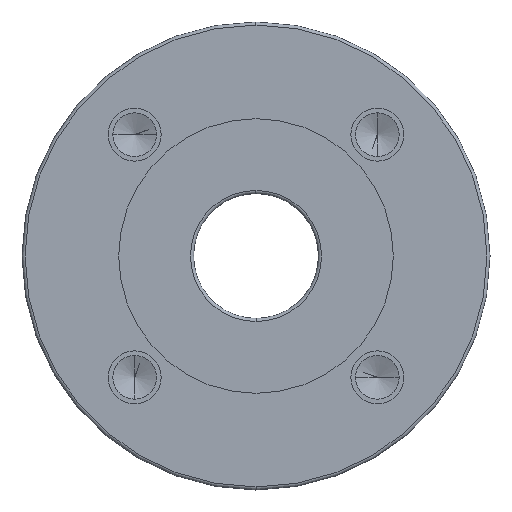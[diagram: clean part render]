
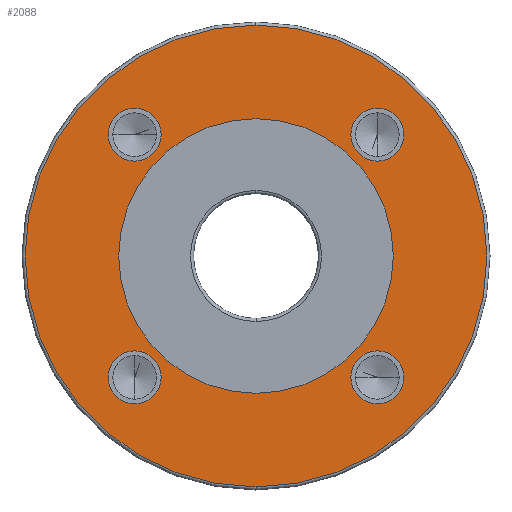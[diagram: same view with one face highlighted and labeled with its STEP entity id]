
A CAD part, left-side view. The second image highlights one B-rep face of the part: STEP entity #2088.
In plain terms, the highlighted planar face has unit normal (-1, 0, 0).
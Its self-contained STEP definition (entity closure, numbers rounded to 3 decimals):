
#1 = EDGE_LOOP ( 'NONE', ( #2082, #35 ) ) ;
#2 = EDGE_CURVE ( 'NONE', #1886, #1882, #347, .T. ) ;
#3 = ORIENTED_EDGE ( 'NONE', *, *, #85, .F. ) ;
#4 = ORIENTED_EDGE ( 'NONE', *, *, #10, .F. ) ;
#6 = ORIENTED_EDGE ( 'NONE', *, *, #157, .F. ) ;
#7 = ORIENTED_EDGE ( 'NONE', *, *, #9, .F. ) ;
#9 = EDGE_CURVE ( 'NONE', #259, #193, #349, .T. ) ;
#10 = EDGE_CURVE ( 'NONE', #60, #353, #335, .T. ) ;
#11 = ORIENTED_EDGE ( 'NONE', *, *, #1691, .F. ) ;
#12 = EDGE_LOOP ( 'NONE', ( #11, #1686 ) ) ;
#13 = ORIENTED_EDGE ( 'NONE', *, *, #257, .F. ) ;
#14 = EDGE_LOOP ( 'NONE', ( #4, #3 ) ) ;
#30 = EDGE_LOOP ( 'NONE', ( #2087, #2089 ) ) ;
#35 = ORIENTED_EDGE ( 'NONE', *, *, #155, .F. ) ;
#60 = VERTEX_POINT ( 'NONE', #401 ) ;
#85 = EDGE_CURVE ( 'NONE', #353, #60, #439, .T. ) ;
#155 = EDGE_CURVE ( 'NONE', #2066, #2065, #597, .T. ) ;
#157 = EDGE_CURVE ( 'NONE', #161, #227, #587, .T. ) ;
#161 = VERTEX_POINT ( 'NONE', #578 ) ;
#193 = VERTEX_POINT ( 'NONE', #647 ) ;
#227 = VERTEX_POINT ( 'NONE', #743 ) ;
#257 = EDGE_CURVE ( 'NONE', #193, #259, #750, .T. ) ;
#259 = VERTEX_POINT ( 'NONE', #792 ) ;
#332 = DIRECTION ( 'NONE',  ( 0., 0., -1. ) ) ;
#333 = DIRECTION ( 'NONE',  ( -1., 0., 0. ) ) ;
#334 = CARTESIAN_POINT ( 'NONE',  ( -32., -38.891, -38.891 ) ) ;
#335 = CIRCLE ( 'NONE', #351, 8.5 ) ;
#338 = DIRECTION ( 'NONE',  ( 0., 0., 1. ) ) ;
#339 = DIRECTION ( 'NONE',  ( -1., 0., 0. ) ) ;
#340 = CARTESIAN_POINT ( 'NONE',  ( -32., 0., 0. ) ) ;
#341 = AXIS2_PLACEMENT_3D ( 'NONE', #340, #339, #338 ) ;
#343 = DIRECTION ( 'NONE',  ( 0., 0., -1. ) ) ;
#344 = DIRECTION ( 'NONE',  ( -1., 0., 0. ) ) ;
#345 = CARTESIAN_POINT ( 'NONE',  ( -32., 0., 0. ) ) ;
#346 = AXIS2_PLACEMENT_3D ( 'NONE', #345, #344, #343 ) ;
#347 = CIRCLE ( 'NONE', #346, 74. ) ;
#349 = CIRCLE ( 'NONE', #341, 44. ) ;
#351 = AXIS2_PLACEMENT_3D ( 'NONE', #334, #333, #332 ) ;
#353 = VERTEX_POINT ( 'NONE', #890 ) ;
#401 = CARTESIAN_POINT ( 'NONE',  ( -32., -30.391, -38.891 ) ) ;
#435 = DIRECTION ( 'NONE',  ( 0., 0., -1. ) ) ;
#436 = DIRECTION ( 'NONE',  ( -1., 0., 0. ) ) ;
#437 = CARTESIAN_POINT ( 'NONE',  ( -32., -38.891, -38.891 ) ) ;
#438 = AXIS2_PLACEMENT_3D ( 'NONE', #437, #436, #435 ) ;
#439 = CIRCLE ( 'NONE', #438, 8.5 ) ;
#552 = AXIS2_PLACEMENT_3D ( 'NONE', #601, #589, #588 ) ;
#569 = CARTESIAN_POINT ( 'NONE',  ( -32., 38.891, -38.891 ) ) ;
#578 = CARTESIAN_POINT ( 'NONE',  ( -32., 38.891, -47.391 ) ) ;
#580 = DIRECTION ( 'NONE',  ( 0., 0., -1. ) ) ;
#581 = DIRECTION ( 'NONE',  ( -1., 0., 0. ) ) ;
#586 = AXIS2_PLACEMENT_3D ( 'NONE', #569, #581, #580 ) ;
#587 = CIRCLE ( 'NONE', #586, 8.5 ) ;
#588 = DIRECTION ( 'NONE',  ( 0., 0., -1. ) ) ;
#589 = DIRECTION ( 'NONE',  ( -1., 0., 0. ) ) ;
#597 = CIRCLE ( 'NONE', #552, 8.5 ) ;
#601 = CARTESIAN_POINT ( 'NONE',  ( -32., -38.891, 38.891 ) ) ;
#647 = CARTESIAN_POINT ( 'NONE',  ( -32., 0., 44. ) ) ;
#743 = CARTESIAN_POINT ( 'NONE',  ( -32., 38.891, -30.391 ) ) ;
#750 = CIRCLE ( 'NONE', #800, 44. ) ;
#792 = CARTESIAN_POINT ( 'NONE',  ( -32., 0., -44. ) ) ;
#796 = DIRECTION ( 'NONE',  ( 0., 0., 1. ) ) ;
#797 = DIRECTION ( 'NONE',  ( -1., 0., 0. ) ) ;
#798 = CARTESIAN_POINT ( 'NONE',  ( -32., 0., 0. ) ) ;
#800 = AXIS2_PLACEMENT_3D ( 'NONE', #798, #797, #796 ) ;
#876 = AXIS2_PLACEMENT_3D ( 'NONE', #906, #905, #904 ) ;
#890 = CARTESIAN_POINT ( 'NONE',  ( -32., -47.391, -38.891 ) ) ;
#904 = DIRECTION ( 'NONE',  ( 0., 0., -1. ) ) ;
#905 = DIRECTION ( 'NONE',  ( -1., 0., 0. ) ) ;
#906 = CARTESIAN_POINT ( 'NONE',  ( -32., 38.891, 38.891 ) ) ;
#915 = CIRCLE ( 'NONE', #876, 8.5 ) ;
#1187 = CARTESIAN_POINT ( 'NONE',  ( -32., 0., -74. ) ) ;
#1191 = DIRECTION ( 'NONE',  ( 0., 0., -1. ) ) ;
#1192 = DIRECTION ( 'NONE',  ( -1., 0., 0. ) ) ;
#1193 = CARTESIAN_POINT ( 'NONE',  ( -32., 0., 0. ) ) ;
#1195 = CARTESIAN_POINT ( 'NONE',  ( -32., 0., 74. ) ) ;
#1197 = CIRCLE ( 'NONE', #1208, 74. ) ;
#1208 = AXIS2_PLACEMENT_3D ( 'NONE', #1193, #1192, #1191 ) ;
#1357 = DIRECTION ( 'NONE',  ( 0., 0., -1. ) ) ;
#1358 = DIRECTION ( 'NONE',  ( -1., 0., 0. ) ) ;
#1359 = CARTESIAN_POINT ( 'NONE',  ( -32., 38.891, 38.891 ) ) ;
#1360 = AXIS2_PLACEMENT_3D ( 'NONE', #1359, #1358, #1357 ) ;
#1361 = CIRCLE ( 'NONE', #1360, 8.5 ) ;
#1471 = CARTESIAN_POINT ( 'NONE',  ( -32., 30.391, 38.891 ) ) ;
#1478 = CARTESIAN_POINT ( 'NONE',  ( -32., 47.391, 38.891 ) ) ;
#1519 = CARTESIAN_POINT ( 'NONE',  ( -32., -38.891, 30.391 ) ) ;
#1543 = AXIS2_PLACEMENT_3D ( 'NONE', #1548, #1579, #1578 ) ;
#1544 = CIRCLE ( 'NONE', #1596, 8.5 ) ;
#1548 = CARTESIAN_POINT ( 'NONE',  ( -32., 75., 0. ) ) ;
#1561 = FACE_BOUND ( 'NONE', #12, .T. ) ;
#1562 = CARTESIAN_POINT ( 'NONE',  ( -32., -38.891, 47.391 ) ) ;
#1576 = PLANE ( 'NONE',  #1543 ) ;
#1578 = DIRECTION ( 'NONE',  ( 0., 0., -1. ) ) ;
#1579 = DIRECTION ( 'NONE',  ( 1., 0., 0. ) ) ;
#1580 = FACE_BOUND ( 'NONE', #14, .T. ) ;
#1581 = FACE_BOUND ( 'NONE', #2079, .T. ) ;
#1586 = FACE_BOUND ( 'NONE', #1, .T. ) ;
#1587 = FACE_BOUND ( 'NONE', #2086, .T. ) ;
#1589 = DIRECTION ( 'NONE',  ( 0., 0., -1. ) ) ;
#1590 = DIRECTION ( 'NONE',  ( -1., 0., 0. ) ) ;
#1591 = CARTESIAN_POINT ( 'NONE',  ( -32., -38.891, 38.891 ) ) ;
#1592 = FACE_OUTER_BOUND ( 'NONE', #30, .T. ) ;
#1593 = DIRECTION ( 'NONE',  ( 0., 0., -1. ) ) ;
#1594 = DIRECTION ( 'NONE',  ( -1., 0., 0. ) ) ;
#1595 = CARTESIAN_POINT ( 'NONE',  ( -32., 38.891, -38.891 ) ) ;
#1596 = AXIS2_PLACEMENT_3D ( 'NONE', #1595, #1594, #1593 ) ;
#1597 = CIRCLE ( 'NONE', #1599, 8.5 ) ;
#1599 = AXIS2_PLACEMENT_3D ( 'NONE', #1591, #1590, #1589 ) ;
#1686 = ORIENTED_EDGE ( 'NONE', *, *, #1972, .F. ) ;
#1691 = EDGE_CURVE ( 'NONE', #2028, #2030, #915, .T. ) ;
#1881 = EDGE_CURVE ( 'NONE', #1882, #1886, #1197, .T. ) ;
#1882 = VERTEX_POINT ( 'NONE', #1195 ) ;
#1886 = VERTEX_POINT ( 'NONE', #1187 ) ;
#1972 = EDGE_CURVE ( 'NONE', #2030, #2028, #1361, .T. ) ;
#2028 = VERTEX_POINT ( 'NONE', #1471 ) ;
#2030 = VERTEX_POINT ( 'NONE', #1478 ) ;
#2065 = VERTEX_POINT ( 'NONE', #1519 ) ;
#2066 = VERTEX_POINT ( 'NONE', #1562 ) ;
#2079 = EDGE_LOOP ( 'NONE', ( #13, #7 ) ) ;
#2080 = EDGE_CURVE ( 'NONE', #227, #161, #1544, .T. ) ;
#2081 = EDGE_CURVE ( 'NONE', #2065, #2066, #1597, .T. ) ;
#2082 = ORIENTED_EDGE ( 'NONE', *, *, #2081, .F. ) ;
#2085 = ORIENTED_EDGE ( 'NONE', *, *, #2080, .F. ) ;
#2086 = EDGE_LOOP ( 'NONE', ( #2085, #6 ) ) ;
#2087 = ORIENTED_EDGE ( 'NONE', *, *, #2, .T. ) ;
#2088 = ADVANCED_FACE ( 'NONE', ( #1592, #1586, #1587, #1581, #1580, #1561 ), #1576, .F. ) ;
#2089 = ORIENTED_EDGE ( 'NONE', *, *, #1881, .T. ) ;
